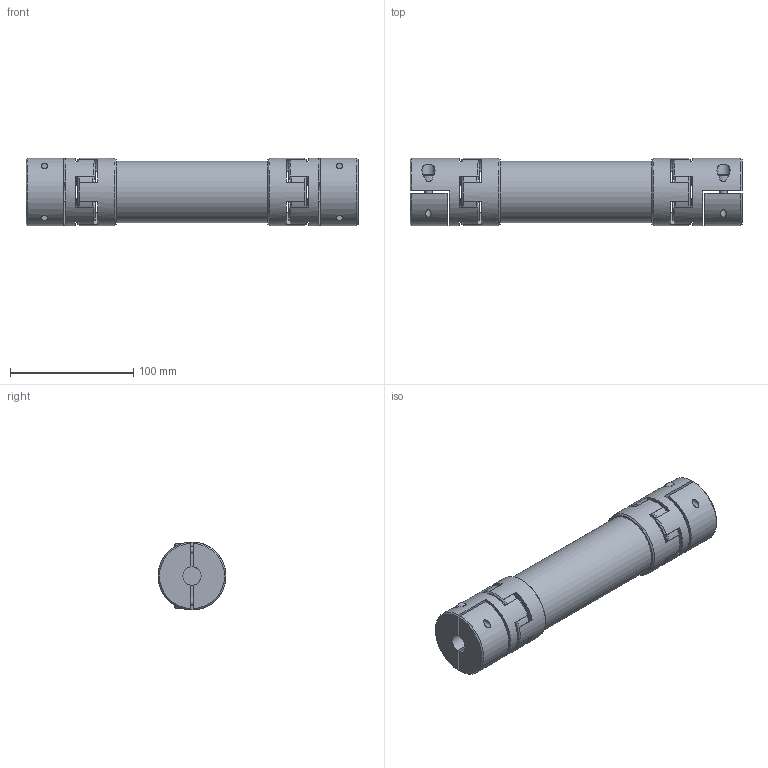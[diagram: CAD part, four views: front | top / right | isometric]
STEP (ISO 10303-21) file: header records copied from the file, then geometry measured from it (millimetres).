
FILE_DESCRIPTION(/* description */ ('Zwischenwellenkupplung AL24'),/* implementation_level */ '2;1');
FILE_NAME(/* name */ 'ALRP24-L205-15-KL-15-KL',/* time_stamp */ '2024-01-05T15:37:56+01:00',/* author */ ('License CC BY-ND 4.0'),/* organization */ ('CADENAS'),/* preprocessor_version */ 'ST-DEVELOPER v20',/* originating_system */ 'Autodesk Inventor 2024',/* authorisation */ ' ');
FILE_SCHEMA (('AUTOMOTIVE_DESIGN { 1 0 10303 214 3 1 1 }'));
Length unit declared in the file: millimetre
Products named in the file (1): Zwischenwellenkupplung AL24
Bounding box: 269 x 55 x 55 mm (x, y, z)
Volume: 391905.8 mm3; surface area: 113396.3 mm2
Topology: 11 solids, 11 shells, 402 faces, 974 edges, 632 vertices
Faces by surface type: cylinder 178, plane 120, cone 96, torus 8
Full cylindrical faces by diameter (mm): 2.538 x24, 4.062 x4, 4.917 x4, 6 x4, 7 x4, 10 x6, 15 x2, 26 x4, 40 x1, 50 x1, 55 x4
Entity records: 12813 total; most frequent: CARTESIAN_POINT 2928, DIRECTION 2170, ORIENTED_EDGE 1948, EDGE_CURVE 974, AXIS2_PLACEMENT_3D 940, VERTEX_POINT 632, CIRCLE 536, EDGE_LOOP 462
